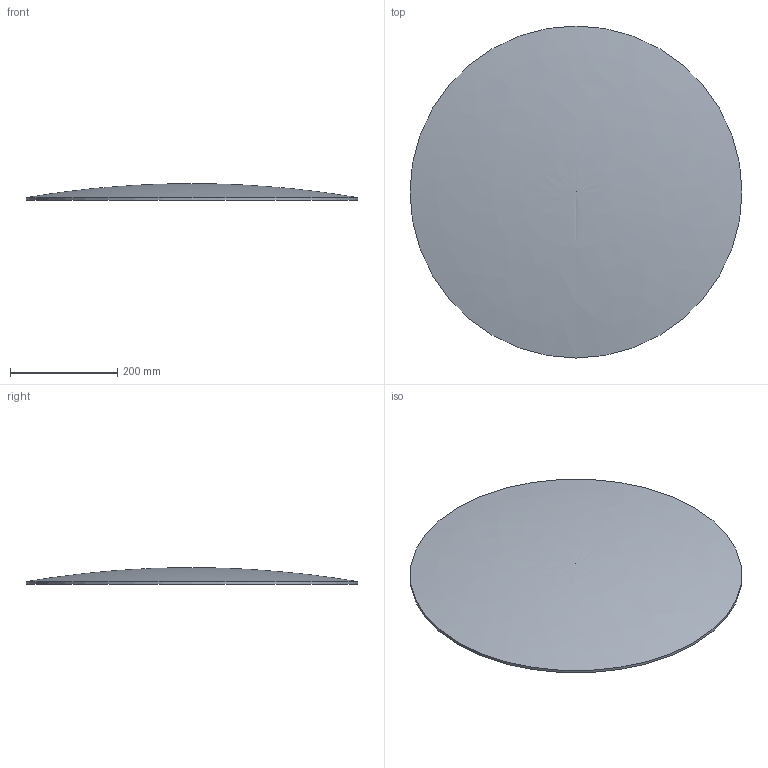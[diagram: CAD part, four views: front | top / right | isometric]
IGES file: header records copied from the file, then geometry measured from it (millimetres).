
Start section: Data from Parasolid IGES Translator 20.0.26, Copyright(c) 2006 Siemens P LM Software. All Rights Reserved.
Global section: file name: 48676.igs; native system: By Siemens PLM Incorporated; preprocessor: XPlus GENERIC/IGES 20.0.26; author: Noname; organization: Noname; date: 20210125.173035; units: millimetre
Bounding box: 620 x 620 x 31.14 mm (x, y, z)
Surface area: 617974.9 mm2 (no closed solid volume)
Topology: 0 solids, 0 shells, 3 faces, 16 edges, 14 vertices
Faces by surface type: revolution 3
